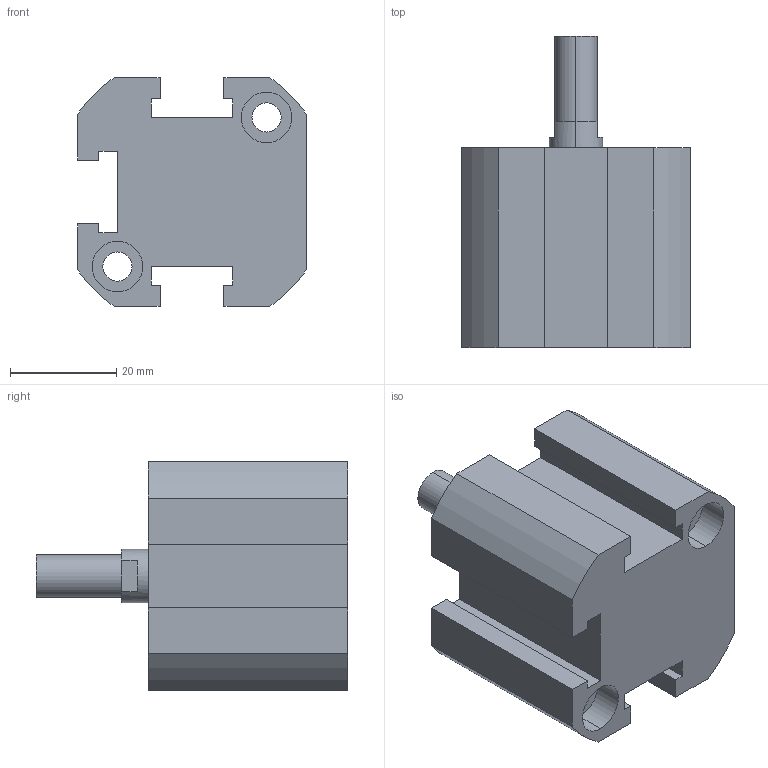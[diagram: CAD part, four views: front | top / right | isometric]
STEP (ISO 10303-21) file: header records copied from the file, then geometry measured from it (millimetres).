
FILE_DESCRIPTION (( 'STEP AP203' ), '1' );
FILE_NAME ('XG#M0-25-10.STEP', '2016-05-24T02:03:47', ( '' ), ( '' ), 'SwSTEP 2.0', 'SolidWorks 2014', '' );
FILE_SCHEMA (( 'CONFIG_CONTROL_DESIGN' ));
Length unit declared in the file: millimetre
Products named in the file (1): XG#M0-25-10
Bounding box: 43 x 58.5 x 43 mm (x, y, z)
Volume: 52350.8 mm3; surface area: 13741.2 mm2
Topology: 1 solids, 1 shells, 88 faces, 225 edges, 147 vertices
Faces by surface type: plane 46, cylinder 40, cone 2
Entity records: 2758 total; most frequent: DIRECTION 487, CARTESIAN_POINT 459, ORIENTED_EDGE 446, EDGE_CURVE 223, AXIS2_PLACEMENT_3D 175, VERTEX_POINT 147, LINE 137, VECTOR 137
